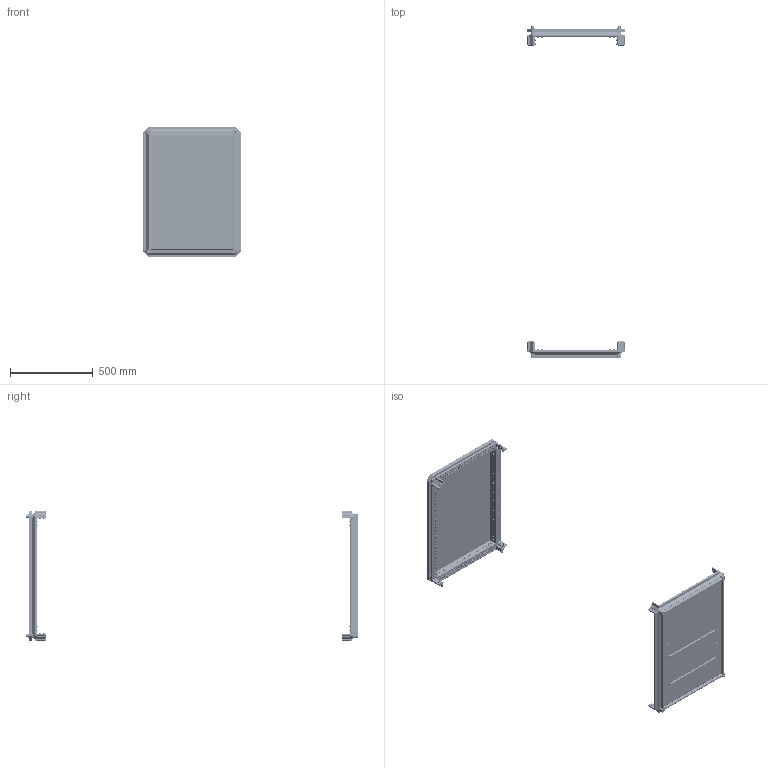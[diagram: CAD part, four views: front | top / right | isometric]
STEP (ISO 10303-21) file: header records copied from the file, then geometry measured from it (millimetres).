
FILE_DESCRIPTION (( 'STEP AP203' ), '1' );
FILE_NAME ('MA1.101.060820.00.00 AleSta-RB68 Êîìïëåêò êðûøà è îñíîâàíèå.STEP', '2025-02-19T13:58:49', ( '' ), ( '' ), 'SwSTEP 2.0', 'SolidWorks 2021', '' );
FILE_SCHEMA (( 'CONFIG_CONTROL_DESIGN' ));
Length unit declared in the file: millimetre
Products named in the file (19): MA1.101.060620.00.02 Ïðîôèëü ïîïåðå÷íûé ñâàðíîé_02 L=698 (˜=800) ; ﾘ琺矜 01.019 ﾃﾎﾑﾒ11371-78_12; ﾇﾀﾊﾋﾅﾏﾊﾀ ﾃﾀﾅﾗﾍﾀﾟ ﾘﾅﾑﾒﾈﾃﾐﾀﾍﾍﾀﾟ ﾑ ﾓﾌﾅﾍﾜﾘﾅﾍﾍﾛﾌ ﾁﾎﾐﾒﾎﾌ M4 X 11 (0.5-2.5 ﾌﾌ) HEX U-S ﾖﾈﾍﾊ; Øïèëüêà Ì6õ12_˜¯¨«ìª  Œ6å12; MA1.101.060620.10.00 Êðûøà 600x600_600å800; MA1.101.060620.20.00 Íèæíÿÿ ïàíåëü 600õ600_600å800; ﾘ琺矜 65ﾃ 019 ﾃﾎﾑﾒ 6402-70_12; 7380-2 ISO Âèíòû ñ ïîëóêðóãëîé ãîëîâêîé ñ ôëàíöåì ñ âíóòðåííèì øåñòèãðàííèêîì Ì4õ10; Óïëîòíèòåëü ïàíåëè íèæíåé_600å800; Âèíò ðåçüáîâûäàâëèâàþùèé Ì6õ12 DIN 7500E_Œ6å10; MA1.101.060620.10.01 Ïîëîòíî êðûøè 600õ600_600å800; Âèíò ñ âí. øåñòèãðàííèêîì M12 DIN912_•30; MA1.101.060620.00.02 Ïðîôèëü ïîïåðå÷íûé ñâàðíîé_01 L=498 (˜=600); Âèíò_ðåçüáîâûäàâëèâàþùèé_Ì5õ12_DIN 7500E_Œ5å12; Øàéáà ñòîïîðíàÿ ñ íàðóæíûìè çóáöàìè SCHNORR, òèï VS öèíêîâûå õëîïüÿ Ì6 O6,4 ART 88121_Œ6; MA1.101.060620.20.01 Ïîëîòíî íèæíåé ïàíåëè 600õ600_600å800; MA1.101.060620.20.02 Çàêðûòèå íèæíåé ïàíåëè 600õ600_600x800; MA1.100.060620.00.01 Ñîåäèíèòåëü óãëîâîé_00; MA1.101.060820.00.00 AleSta-RB68 Êîìïëåêò êðûøà è îñíîâàíèå
Assembly tree (215 placements, depth 3):
  MA1.101.060820.00.00 AleSta-RB68 Êîìïëåêò êðûøà è îñíîâàíèå
    MA1.101.060620.00.02 Ïðîôèëü ïîïåðå÷íûé ñâàðíîé_01 L=498 (˜=600)  x4
    MA1.101.060620.00.02 Ïðîôèëü ïîïåðå÷íûé ñâàðíîé_02 L=698 (˜=800)   x4
    MA1.101.060620.10.00 Êðûøà 600x600_600å800
      MA1.101.060620.10.01 Ïîëîòíî êðûøè 600õ600_600å800
      Øïèëüêà Ì6õ12_˜¯¨«ìª  Œ6å12  x4
      Óïëîòíèòåëü ïàíåëè íèæíåé_600å800
    MA1.101.060620.20.00 Íèæíÿÿ ïàíåëü 600õ600_600å800
      MA1.101.060620.20.01 Ïîëîòíî íèæíåé ïàíåëè 600õ600_600å800
      ﾇﾀﾊﾋﾅﾏﾊﾀ ﾃﾀﾅﾗﾍﾀﾟ ﾘﾅﾑﾒﾈﾃﾐﾀﾍﾍﾀﾟ ﾑ ﾓﾌﾅﾍﾜﾘﾅﾍﾍﾛﾌ ﾁﾎﾐﾒﾎﾌ M4 X 11 (0.5-2.5 ﾌﾌ) HEX U-S ﾖﾈﾍﾊ  x4
      MA1.101.060620.20.02 Çàêðûòèå íèæíåé ïàíåëè 600õ600_600x800  x2
      7380-2 ISO Âèíòû ñ ïîëóêðóãëîé ãîëîâêîé ñ ôëàíöåì ñ âíóòðåííèì øåñòèãðàííèêîì Ì4õ10  x4
    Âèíò_ðåçüáîâûäàâëèâàþùèé_Ì5õ12_DIN 7500E_Œ5å12  x8
    MA1.100.060620.00.01 Ñîåäèíèòåëü óãëîâîé_00  x8
    Âèíò ñ âí. øåñòèãðàííèêîì M12 DIN912_•30  x4
    Âèíò ðåçüáîâûäàâëèâàþùèé Ì6õ12 DIN 7500E_Œ6å10  x80
    ﾘ琺矜 01.019 ﾃﾎﾑﾒ11371-78_12  x4
    ﾘ琺矜 65ﾃ 019 ﾃﾎﾑﾒ 6402-70_12  x4
    Øàéáà ñòîïîðíàÿ ñ íàðóæíûìè çóáöàìè SCHNORR, òèï VS öèíêîâûå õëîïüÿ Ì6 O6,4 ART 88121_Œ6  x80
Bounding box: 592 x 2010.9 x 792 mm (x, y, z)
Volume: 3663308.1 mm3; surface area: 3920310.5 mm2
Topology: 213 solids, 213 shells, 12198 faces, 31720 edges, 19952 vertices
Faces by surface type: plane 8926, cylinder 2456, cone 520, bspline 248, torus 48
Entity records: 64776 total; most frequent: CARTESIAN_POINT 13339, DIRECTION 9058, ORIENTED_EDGE 8958, EDGE_CURVE 4479, LINE 3330, VECTOR 3330, AXIS2_PLACEMENT_3D 2864, VERTEX_POINT 2743
